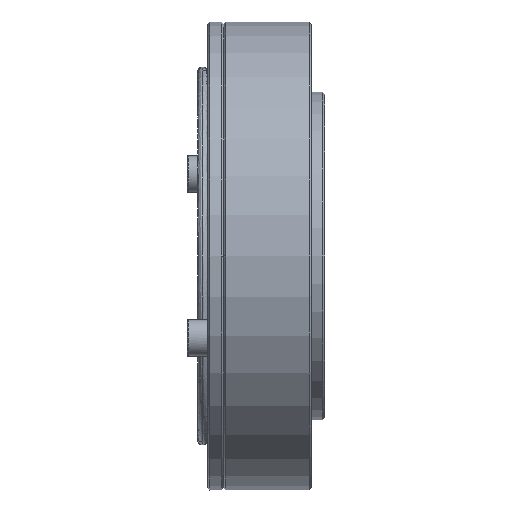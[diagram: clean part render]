
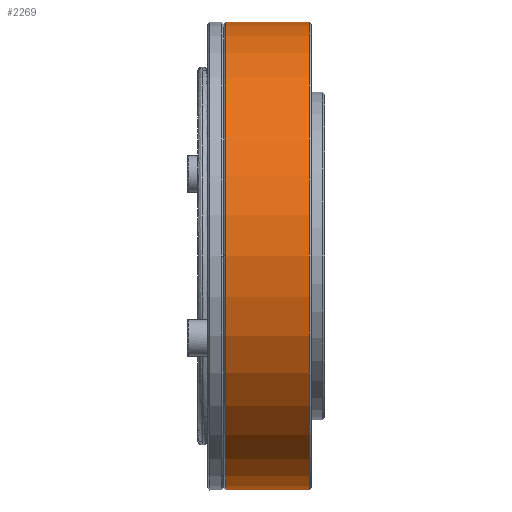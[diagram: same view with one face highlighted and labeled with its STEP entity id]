
A CAD part, front view. The second image highlights one B-rep face of the part: STEP entity #2269.
In plain terms, the highlighted cylindrical face has radius 35 mm (diameter 70 mm), a partial arc.
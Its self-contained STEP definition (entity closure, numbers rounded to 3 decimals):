
#297 = CARTESIAN_POINT ( 'NONE',  ( 12.8, 0., 35. ) ) ;
#805 = DIRECTION ( 'NONE',  ( 1., 0., 0. ) ) ;
#866 = DIRECTION ( 'NONE',  ( -1., 0., 0. ) ) ;
#1365 = VERTEX_POINT ( 'NONE', #10621 ) ;
#1781 = VECTOR ( 'NONE', #16287, 1000. ) ;
#2269 = ADVANCED_FACE ( 'NONE', ( #4720 ), #4940, .T. ) ;
#2414 = EDGE_CURVE ( 'NONE', #5529, #5142, #14064, .T. ) ;
#2522 = DIRECTION ( 'NONE',  ( 1., 0., 0. ) ) ;
#4161 = DIRECTION ( 'NONE',  ( 0., 0., 1. ) ) ;
#4441 = VECTOR ( 'NONE', #17323, 1000. ) ;
#4604 = ORIENTED_EDGE ( 'NONE', *, *, #2414, .T. ) ;
#4720 = FACE_OUTER_BOUND ( 'NONE', #5933, .T. ) ;
#4940 = CYLINDRICAL_SURFACE ( 'NONE', #6704, 35. ) ;
#5142 = VERTEX_POINT ( 'NONE', #8708 ) ;
#5302 = CARTESIAN_POINT ( 'NONE',  ( 12.8, 0., 0. ) ) ;
#5529 = VERTEX_POINT ( 'NONE', #13587 ) ;
#5907 = VERTEX_POINT ( 'NONE', #8586 ) ;
#5933 = EDGE_LOOP ( 'NONE', ( #15722, #6192, #15038, #4604, #12458 ) ) ;
#6080 = EDGE_CURVE ( 'NONE', #5907, #1365, #14868, .T. ) ;
#6192 = ORIENTED_EDGE ( 'NONE', *, *, #15286, .T. ) ;
#6272 = EDGE_CURVE ( 'NONE', #8437, #5529, #14633, .T. ) ;
#6704 = AXIS2_PLACEMENT_3D ( 'NONE', #12561, #13976, #4161 ) ;
#7948 = CARTESIAN_POINT ( 'NONE',  ( 0.3, 0., 0. ) ) ;
#8437 = VERTEX_POINT ( 'NONE', #297 ) ;
#8586 = CARTESIAN_POINT ( 'NONE',  ( 12.8, 0., -35. ) ) ;
#8708 = CARTESIAN_POINT ( 'NONE',  ( 0.3, -35., 0. ) ) ;
#9915 = AXIS2_PLACEMENT_3D ( 'NONE', #7948, #2522, #13688 ) ;
#10219 = CARTESIAN_POINT ( 'NONE',  ( 0.3, 0., 0. ) ) ;
#10296 = AXIS2_PLACEMENT_3D ( 'NONE', #10219, #805, #17412 ) ;
#10621 = CARTESIAN_POINT ( 'NONE',  ( 0.3, 0., -35. ) ) ;
#12127 = CARTESIAN_POINT ( 'NONE',  ( 0., 0., -35. ) ) ;
#12458 = ORIENTED_EDGE ( 'NONE', *, *, #17855, .T. ) ;
#12561 = CARTESIAN_POINT ( 'NONE',  ( 0., 0., 0. ) ) ;
#13247 = CIRCLE ( 'NONE', #14297, 35. ) ;
#13587 = CARTESIAN_POINT ( 'NONE',  ( 0.3, 0., 35. ) ) ;
#13688 = DIRECTION ( 'NONE',  ( 0., 0., 1. ) ) ;
#13976 = DIRECTION ( 'NONE',  ( -1., 0., 0. ) ) ;
#14064 = CIRCLE ( 'NONE', #9915, 35. ) ;
#14297 = AXIS2_PLACEMENT_3D ( 'NONE', #5302, #866, #14993 ) ;
#14633 = LINE ( 'NONE', #15854, #4441 ) ;
#14868 = LINE ( 'NONE', #12127, #1781 ) ;
#14921 = CIRCLE ( 'NONE', #10296, 35. ) ;
#14993 = DIRECTION ( 'NONE',  ( 0., 0., 1. ) ) ;
#15038 = ORIENTED_EDGE ( 'NONE', *, *, #6272, .T. ) ;
#15286 = EDGE_CURVE ( 'NONE', #5907, #8437, #13247, .T. ) ;
#15722 = ORIENTED_EDGE ( 'NONE', *, *, #6080, .F. ) ;
#15854 = CARTESIAN_POINT ( 'NONE',  ( 0., 0., 35. ) ) ;
#16287 = DIRECTION ( 'NONE',  ( -1., 0., 0. ) ) ;
#17323 = DIRECTION ( 'NONE',  ( -1., 0., 0. ) ) ;
#17412 = DIRECTION ( 'NONE',  ( 0., 0., 1. ) ) ;
#17855 = EDGE_CURVE ( 'NONE', #5142, #1365, #14921, .T. ) ;
